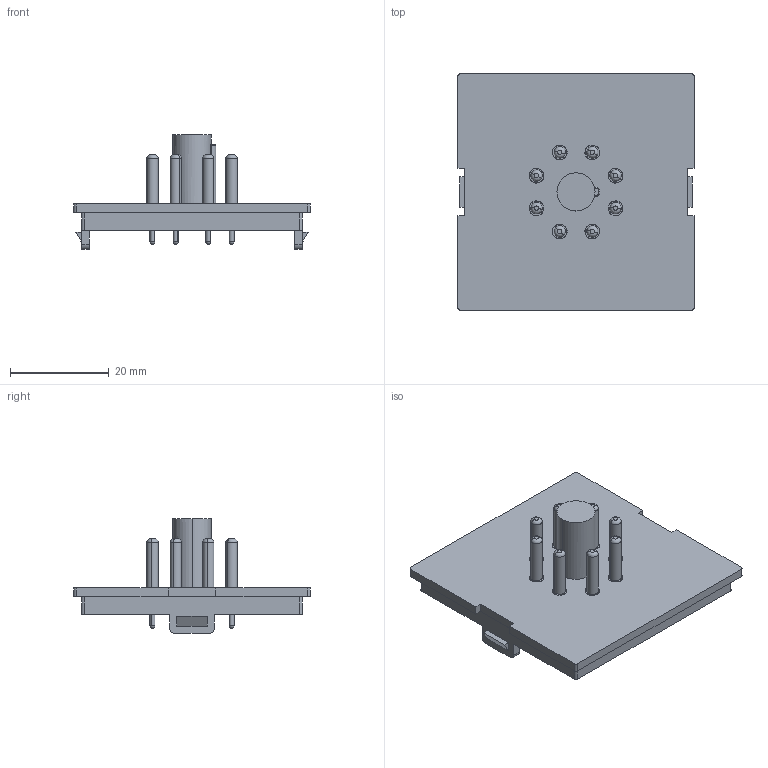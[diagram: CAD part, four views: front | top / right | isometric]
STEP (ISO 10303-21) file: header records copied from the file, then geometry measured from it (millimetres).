
FILE_DESCRIPTION (( 'STEP AP214' ), '1' );
FILE_NAME ('Tapa amb conectors PP50.STEP', '2018-07-02T09:04:14', ( 'aaa' ), ( '' ), 'SwSTEP 2.0', 'SolidWorks 2013', '' );
FILE_SCHEMA (( 'AUTOMOTIVE_DESIGN' ));
Length unit declared in the file: millimetre
Products named in the file (3): Tapa amb conectors PP50; Conector PP50; Tapa sense conectors PP50
Assembly tree (9 placements, depth 2):
  Tapa amb conectors PP50
    Tapa sense conectors PP50
    Conector PP50  x8
Bounding box: 47.8 x 47.8 x 23.2 mm (x, y, z)
Volume: 6616.8 mm3; surface area: 8693.9 mm2
Topology: 9 solids, 9 shells, 226 faces, 518 edges, 339 vertices
Faces by surface type: cylinder 116, plane 84, torus 18, sphere 8
Entity records: 4383 total; most frequent: DIRECTION 801, CARTESIAN_POINT 729, ORIENTED_EDGE 680, EDGE_CURVE 340, AXIS2_PLACEMENT_3D 309, VERTEX_POINT 225, VECTOR 183, LINE 183
